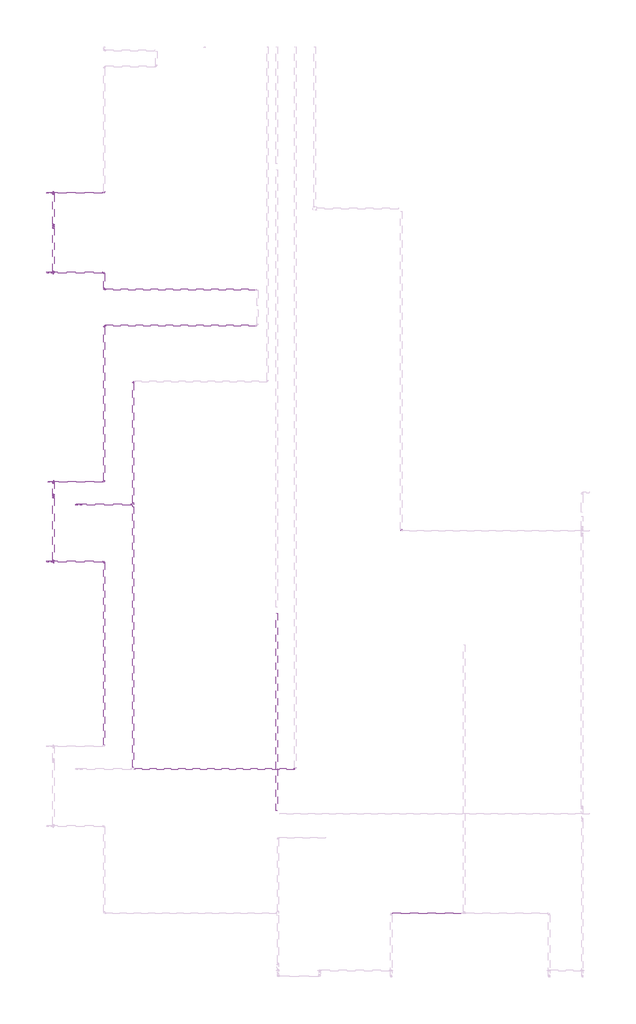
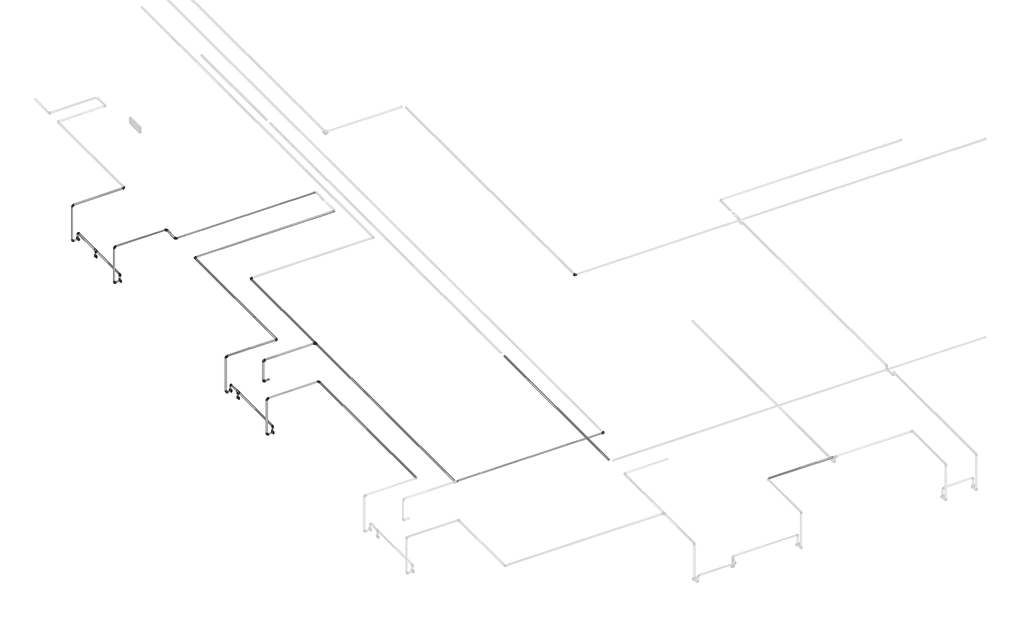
# One storey, part 2 of 40: 35 cable carrier segments, 26 cable carrier fittings, 6 electric appliances.
"""IFC4 building model written with IfcOpenShell, lengths in millimetres."""

from ifc_helpers import new_model, si_unit, point, frame, frame_2d, origin, place, context, project, spatial, circle_curve, trimmed, segment, composite_curve, outline, extrude, transform, mapped, element, save
from components import cable_carrier_fitting_69f1a801, cable_carrier_fitting_f6a85e77, cable_carrier_fitting_8fd13dfc, electric_appliance_5961a143

model = new_model("IFC4")

# Units and contexts
model_context = context("Model", 3, world=origin())
ifc_project = project(units=[si_unit("LENGTHUNIT", "METRE", prefix="MILLI")], contexts=[model_context])

# Site, building, storey
site = spatial("IfcSite", under=ifc_project)
building = spatial("IfcBuilding", under=site)
storey = spatial("IfcBuildingStorey", under=building, Name="1 этаж", Elevation=0.0)

# Cable carrier fittings
placement = place(None, origin())
cable_carrier_fitting_shape = cable_carrier_fitting_69f1a801(model_context)
element("IfcCableCarrierFitting", 1, ObjectType="ADSK_Поворот_Минимальный размер : Неспецифицируемый", at=placement, inside=storey, context=model_context, shape_type="MappedRepresentation", body=[
    mapped(cable_carrier_fitting_shape, transform((-32812.3240021, -5340.3629895, 3187.0), x_axis=(0.0, -1.0, 0.0), y_axis=(1.0, 0.0, 0.0), z_axis=(0.0, 0.0, 1.0))),
])
element("IfcCableCarrierFitting", 2, ObjectType="ADSK_Поворот_Минимальный размер : Неспецифицируемый", at=placement, inside=storey, context=model_context, shape_type="MappedRepresentation", body=[
    mapped(cable_carrier_fitting_shape, transform((-38386.5238077, -5825.3629895, 3187.0), x_axis=(0.0, 0.0, 1.0), y_axis=(1.0, 0.0, 0.0), z_axis=(0.0, 1.0, 0.0))),
])
element("IfcCableCarrierFitting", 3, ObjectType="ADSK_Поворот_Минимальный размер : Неспецифицируемый", at=placement, inside=storey, context=model_context, shape_type="MappedRepresentation", body=[
    mapped(cable_carrier_fitting_shape, transform((-37489.3240021, -5825.3629895, 3187.0), x_axis=(0.0, 1.0, 0.0), y_axis=(-1.0, 0.0, 0.0), z_axis=(0.0, 0.0, 1.0))),
])
element("IfcCableCarrierFitting", 4, ObjectType="ADSK_Поворот_Минимальный размер : Неспецифицируемый", at=placement, inside=storey, context=model_context, shape_type="MappedRepresentation", body=[
    mapped(cable_carrier_fitting_shape, transform((-38286.3240021, -5825.3629895, 2650.0), x_axis=(0.0, -1.0, 0.0), y_axis=(0.0, 0.0, -1.0), z_axis=(1.0, 0.0, 0.0))),
])
element("IfcCableCarrierFitting", 5, ObjectType="ADSK_Поворот_Минимальный размер : Неспецифицируемый", at=placement, inside=storey, context=model_context, shape_type="MappedRepresentation", body=[
    mapped(cable_carrier_fitting_shape, transform((-38386.5238077, -5825.3629895, 2534.0911237), x_axis=(0.0, 0.0, -1.0), y_axis=(1.0, 0.0, 0.0), z_axis=(0.0, -1.0, 0.0))),
])
element("IfcCableCarrierFitting", 6, ObjectType="ADSK_Поворот_Минимальный размер : Неспецифицируемый", at=placement, inside=storey, context=model_context, shape_type="MappedRepresentation", body=[
    mapped(cable_carrier_fitting_shape, transform((-38386.5238077, -23.8629895, 3184.0), x_axis=(0.0, 0.0, 1.0), y_axis=(1.0, 0.0, 0.0), z_axis=(0.0, 1.0, 0.0))),
])
element("IfcCableCarrierFitting", 7, ObjectType="ADSK_Поворот_Минимальный размер : Неспецифицируемый", at=placement, inside=storey, context=model_context, shape_type="MappedRepresentation", body=[
    mapped(cable_carrier_fitting_shape, transform((-38386.5238077, -1277.8629895, 3187.0), x_axis=(0.0, 0.0, 1.0), y_axis=(1.0, 0.0, 0.0), z_axis=(0.0, 1.0, 0.0))),
])
element("IfcCableCarrierFitting", 8, ObjectType="ADSK_Поворот_Минимальный размер : Неспецифицируемый", at=placement, inside=storey, context=model_context, shape_type="MappedRepresentation", body=[
    mapped(cable_carrier_fitting_shape, transform((-37489.3240021, -1277.8629895, 3187.0), x_axis=(0.0, 1.0, 0.0), y_axis=(-1.0, 0.0, 0.0), z_axis=(0.0, 0.0, 1.0))),
])
element("IfcCableCarrierFitting", 9, ObjectType="ADSK_Поворот_Минимальный размер : Неспецифицируемый", at=placement, inside=storey, context=model_context, shape_type="MappedRepresentation", body=[
    mapped(cable_carrier_fitting_shape, transform((-38286.3240021, -1277.8629895, 2650.0), x_axis=(0.0, -1.0, 0.0), y_axis=(0.0, 0.0, -1.0), z_axis=(1.0, 0.0, 0.0))),
])
element("IfcCableCarrierFitting", 10, ObjectType="ADSK_Поворот_Минимальный размер : Неспецифицируемый", at=placement, inside=storey, context=model_context, shape_type="MappedRepresentation", body=[
    mapped(cable_carrier_fitting_shape, transform((-38386.5238077, -1277.8629895, 2534.0911237), x_axis=(0.0, 0.0, -1.0), y_axis=(1.0, 0.0, 0.0), z_axis=(0.0, -1.0, 0.0))),
])
element("IfcCableCarrierFitting", 11, ObjectType="ADSK_Поворот_Минимальный размер : Неспецифицируемый", at=placement, inside=storey, context=model_context, shape_type="MappedRepresentation", body=[
    mapped(cable_carrier_fitting_shape, transform((-38386.5238077, -23.8629895, 2534.0911237), x_axis=(0.0, 0.0, -1.0), y_axis=(1.0, 0.0, 0.0), z_axis=(0.0, -1.0, 0.0))),
])
element("IfcCableCarrierFitting", 12, ObjectType="ADSK_Поворот_Минимальный размер : Неспецифицируемый", at=placement, inside=storey, context=model_context, shape_type="MappedRepresentation", body=[
    mapped(cable_carrier_fitting_shape, transform((-37489.3240021, -23.8629895, 3184.0), x_axis=(1.0, 0.0, 0.0), y_axis=(0.0, 1.0, 0.0), z_axis=(0.0, 0.0, 1.0))),
])
element("IfcCableCarrierFitting", 13, ObjectType="ADSK_Поворот_Минимальный размер : Неспецифицируемый", at=placement, inside=storey, context=model_context, shape_type="MappedRepresentation", body=[
    mapped(cable_carrier_fitting_shape, transform((-37489.3240021, -1547.9012067, 3187.0), x_axis=(0.0, -1.0, 0.0), y_axis=(1.0, 0.0, 0.0), z_axis=(0.0, 0.0, 1.0))),
])
element("IfcCableCarrierFitting", 14, ObjectType="ADSK_Поворот_Минимальный размер : Неспецифицируемый", at=placement, inside=storey, context=model_context, shape_type="MappedRepresentation", body=[
    mapped(cable_carrier_fitting_shape, transform((-37489.3240021, -4571.3629895, 3187.0), x_axis=(1.0, 0.0, 0.0), y_axis=(0.0, 1.0, 0.0), z_axis=(0.0, 0.0, 1.0))),
])
element("IfcCableCarrierFitting", 15, ObjectType="ADSK_Поворот_Минимальный размер : Неспецифицируемый", at=placement, inside=storey, context=model_context, shape_type="MappedRepresentation", body=[
    mapped(cable_carrier_fitting_shape, transform((-37489.3240021, -2112.8629895, 3187.0), x_axis=(-1.0, 0.0, 0.0), y_axis=(0.0, -1.0, 0.0), z_axis=(0.0, 0.0, 1.0))),
])
element("IfcCableCarrierFitting", 16, ObjectType="ADSK_Поворот_Минимальный размер : Неспецифицируемый", at=placement, inside=storey, context=model_context, shape_type="MappedRepresentation", body=[
    mapped(cable_carrier_fitting_shape, transform((-38365.5238077, -4571.3629895, 3187.0), x_axis=(-1.0, 0.0, 0.0), y_axis=(0.0, 0.0, -1.0), z_axis=(0.0, -1.0, 0.0))),
])
element("IfcCableCarrierFitting", 17, ObjectType="ADSK_Поворот_Минимальный размер : Неспецифицируемый", at=placement, inside=storey, context=model_context, shape_type="MappedRepresentation", body=[
    mapped(cable_carrier_fitting_shape, transform((-37929.5238077, -4930.3629895, 2797.4861504), x_axis=(-1.0, 0.0, 0.0), y_axis=(0.0, 0.0, 1.0), z_axis=(0.0, 1.0, 0.0))),
])
element("IfcCableCarrierFitting", 18, ObjectType="ADSK_Поворот_Минимальный размер : Неспецифицируемый", at=placement, inside=storey, context=model_context, shape_type="MappedRepresentation", body=[
    mapped(cable_carrier_fitting_shape, transform((-37032.3240021, -2991.9352607, 3180.0), x_axis=(-1.0, 0.0, 0.0), y_axis=(0.0, -1.0, 0.0), z_axis=(0.0, 0.0, 1.0))),
])
element("IfcCableCarrierFitting", 19, ObjectType="ADSK_Поворот_Минимальный размер : Неспецифицируемый", at=placement, inside=storey, context=model_context, shape_type="MappedRepresentation", body=[
    mapped(cable_carrier_fitting_shape, transform((-37929.5238077, -4930.3629895, 3180.0), x_axis=(0.0, 0.0, 1.0), y_axis=(1.0, 0.0, 0.0), z_axis=(0.0, 1.0, 0.0))),
])
element("IfcCableCarrierFitting", 20, ObjectType="ADSK_Поворот_Минимальный размер : Неспецифицируемый", at=placement, inside=storey, context=model_context, shape_type="MappedRepresentation", body=[
    mapped(cable_carrier_fitting_shape, transform((-34481.7856953, -9090.3629895, 3180.0), x_axis=(1.0, 0.0, 0.0), y_axis=(0.0, 1.0, 0.0), z_axis=(0.0, 0.0, 1.0))),
])
element("IfcCableCarrierFitting", 21, ObjectType="ADSK_Поворот_Минимальный размер : Неспецифицируемый", at=placement, inside=storey, context=model_context, shape_type="MappedRepresentation", body=[
    mapped(cable_carrier_fitting_shape, transform((-38286.3240021, -23.8629895, 2650.0), x_axis=(0.0, 1.0, 0.0), y_axis=(0.0, 0.0, -1.0), z_axis=(-1.0, 0.0, 0.0))),
])
element("IfcCableCarrierFitting", 22, ObjectType="ADSK_Поворот_Минимальный размер : Неспецифицируемый", at=placement, inside=storey, context=model_context, shape_type="MappedRepresentation", body=[
    mapped(cable_carrier_fitting_shape, transform((-38286.3240021, -4571.3629895, 2650.0), x_axis=(0.0, 1.0, 0.0), y_axis=(0.0, 0.0, -1.0), z_axis=(-1.0, 0.0, 0.0))),
])
cable_carrier_fitting_2_shape = cable_carrier_fitting_f6a85e77(model_context)
element("IfcCableCarrierFitting", 23, ObjectType="ADSK_Поворот_Минимальный размер : Неспецифицируемый", at=placement, inside=storey, context=model_context, shape_type="MappedRepresentation", body=[
    mapped(cable_carrier_fitting_2_shape, transform((-38365.5238077, -4571.3629895, 2534.1), x_axis=(0.0, 0.0, -1.0), y_axis=(1.0, 0.0, 0.0), z_axis=(0.0, -1.0, 0.0))),
])
cable_carrier_fitting_3_shape = cable_carrier_fitting_8fd13dfc(model_context)
element("IfcCableCarrierFitting", 24, ObjectType="ADSK_Тройник : ПВХ", at=placement, inside=storey, context=model_context, shape_type="MappedRepresentation", body=[
    mapped(cable_carrier_fitting_3_shape, transform((-38286.3240021, -4795.3629895, 2650.0), x_axis=(0.0, 1.0, 0.0), y_axis=(0.0, 0.0, 1.0), z_axis=(1.0, 0.0, 0.0))),
])
element("IfcCableCarrierFitting", 25, ObjectType="ADSK_Тройник : ПВХ", at=placement, inside=storey, context=model_context, shape_type="MappedRepresentation", body=[
    mapped(cable_carrier_fitting_3_shape, transform((-38286.3240021, -552.8629895, 2650.0), x_axis=(0.0, 1.0, 0.0), y_axis=(0.0, 0.0, 1.0), z_axis=(1.0, 0.0, 0.0))),
])
element("IfcCableCarrierFitting", 26, ObjectType="ADSK_Тройник : ПВХ", at=placement, inside=storey, context=model_context, shape_type="MappedRepresentation", body=[
    mapped(cable_carrier_fitting_3_shape, transform((-37032.3240021, -4930.3629895, 3180.0), x_axis=(0.0, -1.0, 0.0), y_axis=(1.0, 0.0, 0.0), z_axis=(0.0, 0.0, 1.0))),
])

# Cable carrier segments
element("IfcCableCarrierSegment", 27, ObjectType="Гофрированная труба", at=placement, inside=storey, context=model_context, shape_type="SweptSolid", body=[
    extrude(outline(composite_curve([segment(trimmed(circle_curve(frame_2d((3187.0, -34772.3240021)), 10.0), [point((3187.0, -34782.3240021))], [point((3177.0, -34772.3240021))], False, "CARTESIAN"), True, "CONTINUOUS"), segment(trimmed(circle_curve(frame_2d((3187.0, -34772.3240021)), 10.0), [point((3177.0, -34772.3240021))], [point((3187.0, -34762.3240021))], False, "CARTESIAN"), True, "CONTINUOUS"), segment(trimmed(circle_curve(frame_2d((3187.0, -34772.3240021)), 10.0), [point((3187.0, -34762.3240021))], [point((3197.0, -34772.3240021))], False, "CARTESIAN"), True, "CONTINUOUS"), segment(trimmed(circle_curve(frame_2d((3187.0, -34772.3240021)), 10.0), [point((3197.0, -34772.3240021))], [point((3187.0, -34782.3240021))], False, "CARTESIAN"), True, "CONTINUOUS")], self_intersect=False)), frame((0.0, -9748.8629895, 0.0), z_axis=(0.0, 1.0, 0.0), x_axis=(0.0, 0.0, 1.0)), (0.0, 0.0, 1.0), 3107.0),
])
element("IfcCableCarrierSegment", 28, ObjectType="Гофрированная труба", at=placement, inside=storey, context=model_context, shape_type="SweptSolid", body=[
    extrude(outline(composite_curve([segment(trimmed(circle_curve(frame_2d((3187.0, -37489.3240021)), 10.0), [point((3187.0, -37479.3240021))], [point((3197.0, -37489.3240021))], False, "CARTESIAN"), True, "CONTINUOUS"), segment(trimmed(circle_curve(frame_2d((3187.0, -37489.3240021)), 10.0), [point((3197.0, -37489.3240021))], [point((3187.0, -37499.3240021))], False, "CARTESIAN"), True, "CONTINUOUS"), segment(trimmed(circle_curve(frame_2d((3187.0, -37489.3240021)), 10.0), [point((3187.0, -37499.3240021))], [point((3177.0, -37489.3240021))], False, "CARTESIAN"), True, "CONTINUOUS"), segment(trimmed(circle_curve(frame_2d((3187.0, -37489.3240021)), 10.0), [point((3177.0, -37489.3240021))], [point((3187.0, -37479.3240021))], False, "CARTESIAN"), True, "CONTINUOUS")], self_intersect=False)), frame((0.0, -8710.3629895, 0.0), z_axis=(0.0, 1.0, 0.0), x_axis=(0.0, 0.0, 1.0)), (0.0, 0.0, 1.0), 2864.0),
])
element("IfcCableCarrierSegment", 29, ObjectType="Гофрированная труба", at=placement, inside=storey, context=model_context, shape_type="SweptSolid", body=[
    extrude(outline(composite_curve([segment(trimmed(circle_curve(frame_2d((-38286.3240021, -4795.3629895)), 10.0), [point((-38276.3240021, -4795.3629895))], [point((-38286.3240021, -4805.3629895))], False, "CARTESIAN"), True, "CONTINUOUS"), segment(trimmed(circle_curve(frame_2d((-38286.3240021, -4795.3629895)), 10.0), [point((-38286.3240021, -4805.3629895))], [point((-38296.3240021, -4795.3629895))], False, "CARTESIAN"), True, "CONTINUOUS"), segment(trimmed(circle_curve(frame_2d((-38286.3240021, -4795.3629895)), 10.0), [point((-38296.3240021, -4795.3629895))], [point((-38286.3240021, -4785.3629895))], False, "CARTESIAN"), True, "CONTINUOUS"), segment(trimmed(circle_curve(frame_2d((-38286.3240021, -4795.3629895)), 10.0), [point((-38286.3240021, -4785.3629895))], [point((-38276.3240021, -4795.3629895))], False, "CARTESIAN"), True, "CONTINUOUS")], self_intersect=False)), frame((0.0, 0.0, 2563.1207114), z_axis=(0.0, 0.0, 1.0), x_axis=(1.0, 0.0, 0.0)), (0.0, 0.0, 1.0), 56.8792886),
])
element("IfcCableCarrierSegment", 30, ObjectType="Гофрированная труба", at=placement, inside=storey, context=model_context, shape_type="SweptSolid", body=[
    extrude(outline(composite_curve([segment(trimmed(circle_curve(frame_2d((-38286.3240021, -5825.3629895)), 10.0), [point((-38276.3240021, -5825.3629895))], [point((-38286.3240021, -5835.3629895))], False, "CARTESIAN"), True, "CONTINUOUS"), segment(trimmed(circle_curve(frame_2d((-38286.3240021, -5825.3629895)), 10.0), [point((-38286.3240021, -5835.3629895))], [point((-38296.3240021, -5825.3629895))], False, "CARTESIAN"), True, "CONTINUOUS"), segment(trimmed(circle_curve(frame_2d((-38286.3240021, -5825.3629895)), 10.0), [point((-38296.3240021, -5825.3629895))], [point((-38286.3240021, -5815.3629895))], False, "CARTESIAN"), True, "CONTINUOUS"), segment(trimmed(circle_curve(frame_2d((-38286.3240021, -5825.3629895)), 10.0), [point((-38286.3240021, -5815.3629895))], [point((-38276.3240021, -5825.3629895))], False, "CARTESIAN"), True, "CONTINUOUS")], self_intersect=False)), frame((0.0, 0.0, 2563.1207114), z_axis=(0.0, 0.0, 1.0), x_axis=(1.0, 0.0, 0.0)), (0.0, 0.0, 1.0), 65.8792886),
])
element("IfcCableCarrierSegment", 31, ObjectType="Гофрированная труба", at=placement, inside=storey, context=model_context, shape_type="SweptSolid", body=[
    extrude(outline(composite_curve([segment(trimmed(circle_curve(frame_2d((2650.0, -38286.3240021)), 10.0), [point((2650.0, -38296.3240021))], [point((2640.0, -38286.3240021))], False, "CARTESIAN"), True, "CONTINUOUS"), segment(trimmed(circle_curve(frame_2d((2650.0, -38286.3240021)), 10.0), [point((2640.0, -38286.3240021))], [point((2650.0, -38276.3240021))], False, "CARTESIAN"), True, "CONTINUOUS"), segment(trimmed(circle_curve(frame_2d((2650.0, -38286.3240021)), 10.0), [point((2650.0, -38276.3240021))], [point((2660.0, -38286.3240021))], False, "CARTESIAN"), True, "CONTINUOUS"), segment(trimmed(circle_curve(frame_2d((2650.0, -38286.3240021)), 10.0), [point((2660.0, -38286.3240021))], [point((2650.0, -38296.3240021))], False, "CARTESIAN"), True, "CONTINUOUS")], self_intersect=False)), frame((0.0, -5804.3629895, 0.0), z_axis=(0.0, 1.0, 0.0), x_axis=(0.0, 0.0, 1.0)), (0.0, 0.0, 1.0), 979.0),
])
element("IfcCableCarrierSegment", 32, ObjectType="Гофрированная труба", at=placement, inside=storey, context=model_context, shape_type="SweptSolid", body=[
    extrude(outline(composite_curve([segment(trimmed(circle_curve(frame_2d((-38286.3240021, -4571.3629895)), 10.0), [point((-38276.3240021, -4571.3629895))], [point((-38286.3240021, -4581.3629895))], False, "CARTESIAN"), True, "CONTINUOUS"), segment(trimmed(circle_curve(frame_2d((-38286.3240021, -4571.3629895)), 10.0), [point((-38286.3240021, -4581.3629895))], [point((-38296.3240021, -4571.3629895))], False, "CARTESIAN"), True, "CONTINUOUS"), segment(trimmed(circle_curve(frame_2d((-38286.3240021, -4571.3629895)), 10.0), [point((-38296.3240021, -4571.3629895))], [point((-38286.3240021, -4561.3629895))], False, "CARTESIAN"), True, "CONTINUOUS"), segment(trimmed(circle_curve(frame_2d((-38286.3240021, -4571.3629895)), 10.0), [point((-38286.3240021, -4561.3629895))], [point((-38276.3240021, -4571.3629895))], False, "CARTESIAN"), True, "CONTINUOUS")], self_intersect=False)), frame((0.0, 0.0, 2563.1207114), z_axis=(0.0, 0.0, 1.0), x_axis=(1.0, 0.0, 0.0)), (0.0, 0.0, 1.0), 65.8792886),
])
element("IfcCableCarrierSegment", 33, ObjectType="Гофрированная труба", at=placement, inside=storey, context=model_context, shape_type="SweptSolid", body=[
    extrude(outline(composite_curve([segment(trimmed(circle_curve(frame_2d((2650.0, -38286.3240021)), 10.0), [point((2650.0, -38296.3240021))], [point((2640.0, -38286.3240021))], False, "CARTESIAN"), True, "CONTINUOUS"), segment(trimmed(circle_curve(frame_2d((2650.0, -38286.3240021)), 10.0), [point((2640.0, -38286.3240021))], [point((2650.0, -38276.3240021))], False, "CARTESIAN"), True, "CONTINUOUS"), segment(trimmed(circle_curve(frame_2d((2650.0, -38286.3240021)), 10.0), [point((2650.0, -38276.3240021))], [point((2660.0, -38286.3240021))], False, "CARTESIAN"), True, "CONTINUOUS"), segment(trimmed(circle_curve(frame_2d((2650.0, -38286.3240021)), 10.0), [point((2660.0, -38286.3240021))], [point((2650.0, -38296.3240021))], False, "CARTESIAN"), True, "CONTINUOUS")], self_intersect=False)), frame((0.0, -4765.3629895, 0.0), z_axis=(0.0, 1.0, 0.0), x_axis=(0.0, 0.0, 1.0)), (0.0, 0.0, 1.0), 173.0),
])
element("IfcCableCarrierSegment", 34, ObjectType="Гофрированная труба", at=placement, inside=storey, context=model_context, shape_type="SweptSolid", body=[
    extrude(outline(composite_curve([segment(trimmed(circle_curve(frame_2d((-4571.3629895, 3187.0)), 10.0), [point((-4581.3629895, 3187.0))], [point((-4571.3629895, 3197.0))], False, "CARTESIAN"), True, "CONTINUOUS"), segment(trimmed(circle_curve(frame_2d((-4571.3629895, 3187.0)), 10.0), [point((-4571.3629895, 3197.0))], [point((-4561.3629895, 3187.0))], False, "CARTESIAN"), True, "CONTINUOUS"), segment(trimmed(circle_curve(frame_2d((-4571.3629895, 3187.0)), 10.0), [point((-4561.3629895, 3187.0))], [point((-4571.3629895, 3177.0))], False, "CARTESIAN"), True, "CONTINUOUS"), segment(trimmed(circle_curve(frame_2d((-4571.3629895, 3187.0)), 10.0), [point((-4571.3629895, 3177.0))], [point((-4581.3629895, 3187.0))], False, "CARTESIAN"), True, "CONTINUOUS")], self_intersect=False)), frame((-38344.5238077, 0.0, 0.0), z_axis=(1.0, 0.0, 0.0), x_axis=(0.0, 1.0, 0.0)), (0.0, 0.0, 1.0), 834.1998056),
])
element("IfcCableCarrierSegment", 35, ObjectType="Гофрированная труба", at=placement, inside=storey, context=model_context, shape_type="SweptSolid", body=[
    extrude(outline(composite_curve([segment(trimmed(circle_curve(frame_2d((-5825.3629895, 3187.0)), 10.0), [point((-5835.3629895, 3187.0))], [point((-5825.3629895, 3197.0))], False, "CARTESIAN"), True, "CONTINUOUS"), segment(trimmed(circle_curve(frame_2d((-5825.3629895, 3187.0)), 10.0), [point((-5825.3629895, 3197.0))], [point((-5815.3629895, 3187.0))], False, "CARTESIAN"), True, "CONTINUOUS"), segment(trimmed(circle_curve(frame_2d((-5825.3629895, 3187.0)), 10.0), [point((-5815.3629895, 3187.0))], [point((-5825.3629895, 3177.0))], False, "CARTESIAN"), True, "CONTINUOUS"), segment(trimmed(circle_curve(frame_2d((-5825.3629895, 3187.0)), 10.0), [point((-5825.3629895, 3177.0))], [point((-5835.3629895, 3187.0))], False, "CARTESIAN"), True, "CONTINUOUS")], self_intersect=False)), frame((-38365.5238077, 0.0, 0.0), z_axis=(1.0, 0.0, 0.0), x_axis=(0.0, 1.0, 0.0)), (0.0, 0.0, 1.0), 855.1998056),
])
element("IfcCableCarrierSegment", 36, ObjectType="Гофрированная труба", at=placement, inside=storey, context=model_context, shape_type="SweptSolid", body=[
    extrude(outline(composite_curve([segment(trimmed(circle_curve(frame_2d((-5825.3629895, 2534.0911237)), 10.0), [point((-5835.3629895, 2534.0911237))], [point((-5825.3629895, 2544.0911237))], False, "CARTESIAN"), True, "CONTINUOUS"), segment(trimmed(circle_curve(frame_2d((-5825.3629895, 2534.0911237)), 10.0), [point((-5825.3629895, 2544.0911237))], [point((-5815.3629895, 2534.0911237))], False, "CARTESIAN"), True, "CONTINUOUS"), segment(trimmed(circle_curve(frame_2d((-5825.3629895, 2534.0911237)), 10.0), [point((-5815.3629895, 2534.0911237))], [point((-5825.3629895, 2524.0911237))], False, "CARTESIAN"), True, "CONTINUOUS"), segment(trimmed(circle_curve(frame_2d((-5825.3629895, 2534.0911237)), 10.0), [point((-5825.3629895, 2524.0911237))], [point((-5835.3629895, 2534.0911237))], False, "CARTESIAN"), True, "CONTINUOUS")], self_intersect=False)), frame((-38365.5238077, 0.0, 0.0), z_axis=(1.0, 0.0, 0.0), x_axis=(0.0, 1.0, 0.0)), (0.0, 0.0, 1.0), 76.1998056),
])
element("IfcCableCarrierSegment", 37, ObjectType="Гофрированная труба", at=placement, inside=storey, context=model_context, shape_type="SweptSolid", body=[
    extrude(outline(composite_curve([segment(trimmed(circle_curve(frame_2d((-38386.5238077, -5825.3629895)), 10.0), [point((-38396.5238077, -5825.3629895))], [point((-38386.5238077, -5815.3629895))], False, "CARTESIAN"), True, "CONTINUOUS"), segment(trimmed(circle_curve(frame_2d((-38386.5238077, -5825.3629895)), 10.0), [point((-38386.5238077, -5815.3629895))], [point((-38376.5238077, -5825.3629895))], False, "CARTESIAN"), True, "CONTINUOUS"), segment(trimmed(circle_curve(frame_2d((-38386.5238077, -5825.3629895)), 10.0), [point((-38376.5238077, -5825.3629895))], [point((-38386.5238077, -5835.3629895))], False, "CARTESIAN"), True, "CONTINUOUS"), segment(trimmed(circle_curve(frame_2d((-38386.5238077, -5825.3629895)), 10.0), [point((-38386.5238077, -5835.3629895))], [point((-38396.5238077, -5825.3629895))], False, "CARTESIAN"), True, "CONTINUOUS")], self_intersect=False)), frame((0.0, 0.0, 2555.0911237), z_axis=(0.0, 0.0, 1.0), x_axis=(1.0, 0.0, 0.0)), (0.0, 0.0, 1.0), 610.9088763),
])
element("IfcCableCarrierSegment", 38, ObjectType="Гофрированная труба", at=placement, inside=storey, context=model_context, shape_type="SweptSolid", body=[
    extrude(outline(composite_curve([segment(trimmed(circle_curve(frame_2d((-38286.3240021, -552.8629895)), 10.0), [point((-38276.3240021, -552.8629895))], [point((-38286.3240021, -562.8629895))], False, "CARTESIAN"), True, "CONTINUOUS"), segment(trimmed(circle_curve(frame_2d((-38286.3240021, -552.8629895)), 10.0), [point((-38286.3240021, -562.8629895))], [point((-38296.3240021, -552.8629895))], False, "CARTESIAN"), True, "CONTINUOUS"), segment(trimmed(circle_curve(frame_2d((-38286.3240021, -552.8629895)), 10.0), [point((-38296.3240021, -552.8629895))], [point((-38286.3240021, -542.8629895))], False, "CARTESIAN"), True, "CONTINUOUS"), segment(trimmed(circle_curve(frame_2d((-38286.3240021, -552.8629895)), 10.0), [point((-38286.3240021, -542.8629895))], [point((-38276.3240021, -552.8629895))], False, "CARTESIAN"), True, "CONTINUOUS")], self_intersect=False)), frame((0.0, 0.0, 2563.1207114), z_axis=(0.0, 0.0, 1.0), x_axis=(1.0, 0.0, 0.0)), (0.0, 0.0, 1.0), 56.8792886),
])
element("IfcCableCarrierSegment", 39, ObjectType="Гофрированная труба", at=placement, inside=storey, context=model_context, shape_type="SweptSolid", body=[
    extrude(outline(composite_curve([segment(trimmed(circle_curve(frame_2d((-38286.3240021, -1277.8629895)), 10.0), [point((-38276.3240021, -1277.8629895))], [point((-38286.3240021, -1287.8629895))], False, "CARTESIAN"), True, "CONTINUOUS"), segment(trimmed(circle_curve(frame_2d((-38286.3240021, -1277.8629895)), 10.0), [point((-38286.3240021, -1287.8629895))], [point((-38296.3240021, -1277.8629895))], False, "CARTESIAN"), True, "CONTINUOUS"), segment(trimmed(circle_curve(frame_2d((-38286.3240021, -1277.8629895)), 10.0), [point((-38296.3240021, -1277.8629895))], [point((-38286.3240021, -1267.8629895))], False, "CARTESIAN"), True, "CONTINUOUS"), segment(trimmed(circle_curve(frame_2d((-38286.3240021, -1277.8629895)), 10.0), [point((-38286.3240021, -1267.8629895))], [point((-38276.3240021, -1277.8629895))], False, "CARTESIAN"), True, "CONTINUOUS")], self_intersect=False)), frame((0.0, 0.0, 2563.1207114), z_axis=(0.0, 0.0, 1.0), x_axis=(1.0, 0.0, 0.0)), (0.0, 0.0, 1.0), 65.8792886),
])
element("IfcCableCarrierSegment", 40, ObjectType="Гофрированная труба", at=placement, inside=storey, context=model_context, shape_type="SweptSolid", body=[
    extrude(outline(composite_curve([segment(trimmed(circle_curve(frame_2d((2650.0, -38286.3240021)), 10.0), [point((2650.0, -38296.3240021))], [point((2640.0, -38286.3240021))], False, "CARTESIAN"), True, "CONTINUOUS"), segment(trimmed(circle_curve(frame_2d((2650.0, -38286.3240021)), 10.0), [point((2640.0, -38286.3240021))], [point((2650.0, -38276.3240021))], False, "CARTESIAN"), True, "CONTINUOUS"), segment(trimmed(circle_curve(frame_2d((2650.0, -38286.3240021)), 10.0), [point((2650.0, -38276.3240021))], [point((2660.0, -38286.3240021))], False, "CARTESIAN"), True, "CONTINUOUS"), segment(trimmed(circle_curve(frame_2d((2650.0, -38286.3240021)), 10.0), [point((2660.0, -38286.3240021))], [point((2650.0, -38296.3240021))], False, "CARTESIAN"), True, "CONTINUOUS")], self_intersect=False)), frame((0.0, -1256.8629895, 0.0), z_axis=(0.0, 1.0, 0.0), x_axis=(0.0, 0.0, 1.0)), (0.0, 0.0, 1.0), 674.0),
])
element("IfcCableCarrierSegment", 41, ObjectType="Гофрированная труба", at=placement, inside=storey, context=model_context, shape_type="SweptSolid", body=[
    extrude(outline(composite_curve([segment(trimmed(circle_curve(frame_2d((-38286.3240021, -23.8629895)), 10.0), [point((-38276.3240021, -23.8629895))], [point((-38286.3240021, -33.8629895))], False, "CARTESIAN"), True, "CONTINUOUS"), segment(trimmed(circle_curve(frame_2d((-38286.3240021, -23.8629895)), 10.0), [point((-38286.3240021, -33.8629895))], [point((-38296.3240021, -23.8629895))], False, "CARTESIAN"), True, "CONTINUOUS"), segment(trimmed(circle_curve(frame_2d((-38286.3240021, -23.8629895)), 10.0), [point((-38296.3240021, -23.8629895))], [point((-38286.3240021, -13.8629895))], False, "CARTESIAN"), True, "CONTINUOUS"), segment(trimmed(circle_curve(frame_2d((-38286.3240021, -23.8629895)), 10.0), [point((-38286.3240021, -13.8629895))], [point((-38276.3240021, -23.8629895))], False, "CARTESIAN"), True, "CONTINUOUS")], self_intersect=False)), frame((0.0, 0.0, 2563.1207114), z_axis=(0.0, 0.0, 1.0), x_axis=(1.0, 0.0, 0.0)), (0.0, 0.0, 1.0), 65.8792886),
])
element("IfcCableCarrierSegment", 42, ObjectType="Гофрированная труба", at=placement, inside=storey, context=model_context, shape_type="SweptSolid", body=[
    extrude(outline(composite_curve([segment(trimmed(circle_curve(frame_2d((2650.0, -38286.3240021)), 10.0), [point((2650.0, -38296.3240021))], [point((2640.0, -38286.3240021))], False, "CARTESIAN"), True, "CONTINUOUS"), segment(trimmed(circle_curve(frame_2d((2650.0, -38286.3240021)), 10.0), [point((2640.0, -38286.3240021))], [point((2650.0, -38276.3240021))], False, "CARTESIAN"), True, "CONTINUOUS"), segment(trimmed(circle_curve(frame_2d((2650.0, -38286.3240021)), 10.0), [point((2650.0, -38276.3240021))], [point((2660.0, -38286.3240021))], False, "CARTESIAN"), True, "CONTINUOUS"), segment(trimmed(circle_curve(frame_2d((2650.0, -38286.3240021)), 10.0), [point((2660.0, -38286.3240021))], [point((2650.0, -38296.3240021))], False, "CARTESIAN"), True, "CONTINUOUS")], self_intersect=False)), frame((0.0, -522.8629895, 0.0), z_axis=(0.0, 1.0, 0.0), x_axis=(0.0, 0.0, 1.0)), (0.0, 0.0, 1.0), 478.0),
])
element("IfcCableCarrierSegment", 43, ObjectType="Гофрированная труба", at=placement, inside=storey, context=model_context, shape_type="SweptSolid", body=[
    extrude(outline(composite_curve([segment(trimmed(circle_curve(frame_2d((-23.8629895, 3184.0)), 10.0), [point((-33.8629895, 3184.0))], [point((-23.8629895, 3194.0))], False, "CARTESIAN"), True, "CONTINUOUS"), segment(trimmed(circle_curve(frame_2d((-23.8629895, 3184.0)), 10.0), [point((-23.8629895, 3194.0))], [point((-13.8629895, 3184.0))], False, "CARTESIAN"), True, "CONTINUOUS"), segment(trimmed(circle_curve(frame_2d((-23.8629895, 3184.0)), 10.0), [point((-13.8629895, 3184.0))], [point((-23.8629895, 3174.0))], False, "CARTESIAN"), True, "CONTINUOUS"), segment(trimmed(circle_curve(frame_2d((-23.8629895, 3184.0)), 10.0), [point((-23.8629895, 3174.0))], [point((-33.8629895, 3184.0))], False, "CARTESIAN"), True, "CONTINUOUS")], self_intersect=False)), frame((-38365.5238077, 0.0, 0.0), z_axis=(1.0, 0.0, 0.0), x_axis=(0.0, 1.0, 0.0)), (0.0, 0.0, 1.0), 855.1998056),
])
element("IfcCableCarrierSegment", 44, ObjectType="Гофрированная труба", at=placement, inside=storey, context=model_context, shape_type="SweptSolid", body=[
    extrude(outline(composite_curve([segment(trimmed(circle_curve(frame_2d((-23.8629895, 2534.0911237)), 10.0), [point((-33.8629895, 2534.0911237))], [point((-23.8629895, 2544.0911237))], False, "CARTESIAN"), True, "CONTINUOUS"), segment(trimmed(circle_curve(frame_2d((-23.8629895, 2534.0911237)), 10.0), [point((-23.8629895, 2544.0911237))], [point((-13.8629895, 2534.0911237))], False, "CARTESIAN"), True, "CONTINUOUS"), segment(trimmed(circle_curve(frame_2d((-23.8629895, 2534.0911237)), 10.0), [point((-13.8629895, 2534.0911237))], [point((-23.8629895, 2524.0911237))], False, "CARTESIAN"), True, "CONTINUOUS"), segment(trimmed(circle_curve(frame_2d((-23.8629895, 2534.0911237)), 10.0), [point((-23.8629895, 2524.0911237))], [point((-33.8629895, 2534.0911237))], False, "CARTESIAN"), True, "CONTINUOUS")], self_intersect=False)), frame((-38365.5238077, 0.0, 0.0), z_axis=(1.0, 0.0, 0.0), x_axis=(0.0, 1.0, 0.0)), (0.0, 0.0, 1.0), 76.1998056),
])
element("IfcCableCarrierSegment", 45, ObjectType="Гофрированная труба", at=placement, inside=storey, context=model_context, shape_type="SweptSolid", body=[
    extrude(outline(composite_curve([segment(trimmed(circle_curve(frame_2d((-38386.5238077, -23.8629895)), 10.0), [point((-38396.5238077, -23.8629895))], [point((-38386.5238077, -13.8629895))], False, "CARTESIAN"), True, "CONTINUOUS"), segment(trimmed(circle_curve(frame_2d((-38386.5238077, -23.8629895)), 10.0), [point((-38386.5238077, -13.8629895))], [point((-38376.5238077, -23.8629895))], False, "CARTESIAN"), True, "CONTINUOUS"), segment(trimmed(circle_curve(frame_2d((-38386.5238077, -23.8629895)), 10.0), [point((-38376.5238077, -23.8629895))], [point((-38386.5238077, -33.8629895))], False, "CARTESIAN"), True, "CONTINUOUS"), segment(trimmed(circle_curve(frame_2d((-38386.5238077, -23.8629895)), 10.0), [point((-38386.5238077, -33.8629895))], [point((-38396.5238077, -23.8629895))], False, "CARTESIAN"), True, "CONTINUOUS")], self_intersect=False)), frame((0.0, 0.0, 2555.0911237), z_axis=(0.0, 0.0, 1.0), x_axis=(1.0, 0.0, 0.0)), (0.0, 0.0, 1.0), 607.9088763),
])
element("IfcCableCarrierSegment", 46, ObjectType="Гофрированная труба", at=placement, inside=storey, context=model_context, shape_type="SweptSolid", body=[
    extrude(outline(composite_curve([segment(trimmed(circle_curve(frame_2d((-1277.8629895, 3187.0)), 10.0), [point((-1287.8629895, 3187.0))], [point((-1277.8629895, 3197.0))], False, "CARTESIAN"), True, "CONTINUOUS"), segment(trimmed(circle_curve(frame_2d((-1277.8629895, 3187.0)), 10.0), [point((-1277.8629895, 3197.0))], [point((-1267.8629895, 3187.0))], False, "CARTESIAN"), True, "CONTINUOUS"), segment(trimmed(circle_curve(frame_2d((-1277.8629895, 3187.0)), 10.0), [point((-1267.8629895, 3187.0))], [point((-1277.8629895, 3177.0))], False, "CARTESIAN"), True, "CONTINUOUS"), segment(trimmed(circle_curve(frame_2d((-1277.8629895, 3187.0)), 10.0), [point((-1277.8629895, 3177.0))], [point((-1287.8629895, 3187.0))], False, "CARTESIAN"), True, "CONTINUOUS")], self_intersect=False)), frame((-38365.5238077, 0.0, 0.0), z_axis=(1.0, 0.0, 0.0), x_axis=(0.0, 1.0, 0.0)), (0.0, 0.0, 1.0), 855.1998056),
])
element("IfcCableCarrierSegment", 47, ObjectType="Гофрированная труба", at=placement, inside=storey, context=model_context, shape_type="SweptSolid", body=[
    extrude(outline(composite_curve([segment(trimmed(circle_curve(frame_2d((-1277.8629895, 2534.0911237)), 10.0), [point((-1287.8629895, 2534.0911237))], [point((-1277.8629895, 2544.0911237))], False, "CARTESIAN"), True, "CONTINUOUS"), segment(trimmed(circle_curve(frame_2d((-1277.8629895, 2534.0911237)), 10.0), [point((-1277.8629895, 2544.0911237))], [point((-1267.8629895, 2534.0911237))], False, "CARTESIAN"), True, "CONTINUOUS"), segment(trimmed(circle_curve(frame_2d((-1277.8629895, 2534.0911237)), 10.0), [point((-1267.8629895, 2534.0911237))], [point((-1277.8629895, 2524.0911237))], False, "CARTESIAN"), True, "CONTINUOUS"), segment(trimmed(circle_curve(frame_2d((-1277.8629895, 2534.0911237)), 10.0), [point((-1277.8629895, 2524.0911237))], [point((-1287.8629895, 2534.0911237))], False, "CARTESIAN"), True, "CONTINUOUS")], self_intersect=False)), frame((-38365.5238077, 0.0, 0.0), z_axis=(1.0, 0.0, 0.0), x_axis=(0.0, 1.0, 0.0)), (0.0, 0.0, 1.0), 76.1998056),
])
element("IfcCableCarrierSegment", 48, ObjectType="Гофрированная труба", at=placement, inside=storey, context=model_context, shape_type="SweptSolid", body=[
    extrude(outline(composite_curve([segment(trimmed(circle_curve(frame_2d((-38386.5238077, -1277.8629895)), 10.0), [point((-38396.5238077, -1277.8629895))], [point((-38386.5238077, -1267.8629895))], False, "CARTESIAN"), True, "CONTINUOUS"), segment(trimmed(circle_curve(frame_2d((-38386.5238077, -1277.8629895)), 10.0), [point((-38386.5238077, -1267.8629895))], [point((-38376.5238077, -1277.8629895))], False, "CARTESIAN"), True, "CONTINUOUS"), segment(trimmed(circle_curve(frame_2d((-38386.5238077, -1277.8629895)), 10.0), [point((-38376.5238077, -1277.8629895))], [point((-38386.5238077, -1287.8629895))], False, "CARTESIAN"), True, "CONTINUOUS"), segment(trimmed(circle_curve(frame_2d((-38386.5238077, -1277.8629895)), 10.0), [point((-38386.5238077, -1287.8629895))], [point((-38396.5238077, -1277.8629895))], False, "CARTESIAN"), True, "CONTINUOUS")], self_intersect=False)), frame((0.0, 0.0, 2555.0911237), z_axis=(0.0, 0.0, 1.0), x_axis=(1.0, 0.0, 0.0)), (0.0, 0.0, 1.0), 610.9088763),
])
element("IfcCableCarrierSegment", 49, ObjectType="Гофрированная труба", at=placement, inside=storey, context=model_context, shape_type="SweptSolid", body=[
    extrude(outline(composite_curve([segment(trimmed(circle_curve(frame_2d((3187.0, -37489.3240021)), 10.0), [point((3187.0, -37499.3240021))], [point((3177.0, -37489.3240021))], False, "CARTESIAN"), True, "CONTINUOUS"), segment(trimmed(circle_curve(frame_2d((3187.0, -37489.3240021)), 10.0), [point((3177.0, -37489.3240021))], [point((3187.0, -37479.3240021))], False, "CARTESIAN"), True, "CONTINUOUS"), segment(trimmed(circle_curve(frame_2d((3187.0, -37489.3240021)), 10.0), [point((3187.0, -37479.3240021))], [point((3197.0, -37489.3240021))], False, "CARTESIAN"), True, "CONTINUOUS"), segment(trimmed(circle_curve(frame_2d((3187.0, -37489.3240021)), 10.0), [point((3197.0, -37489.3240021))], [point((3187.0, -37499.3240021))], False, "CARTESIAN"), True, "CONTINUOUS")], self_intersect=False)), frame((0.0, -1526.9012067, 0.0), z_axis=(0.0, 1.0, 0.0), x_axis=(0.0, 0.0, 1.0)), (0.0, 0.0, 1.0), 228.0382172),
])
element("IfcCableCarrierSegment", 50, ObjectType="Гофрированная труба", at=placement, inside=storey, context=model_context, shape_type="SweptSolid", body=[
    extrude(outline(composite_curve([segment(trimmed(circle_curve(frame_2d((-2112.8629895, 3187.0)), 10.0), [point((-2122.8629895, 3187.0))], [point((-2112.8629895, 3197.0))], False, "CARTESIAN"), True, "CONTINUOUS"), segment(trimmed(circle_curve(frame_2d((-2112.8629895, 3187.0)), 10.0), [point((-2112.8629895, 3197.0))], [point((-2102.8629895, 3187.0))], False, "CARTESIAN"), True, "CONTINUOUS"), segment(trimmed(circle_curve(frame_2d((-2112.8629895, 3187.0)), 10.0), [point((-2102.8629895, 3187.0))], [point((-2112.8629895, 3177.0))], False, "CARTESIAN"), True, "CONTINUOUS"), segment(trimmed(circle_curve(frame_2d((-2112.8629895, 3187.0)), 10.0), [point((-2112.8629895, 3177.0))], [point((-2122.8629895, 3187.0))], False, "CARTESIAN"), True, "CONTINUOUS")], self_intersect=False)), frame((-37468.3240021, 0.0, 0.0), z_axis=(1.0, 0.0, 0.0), x_axis=(0.0, 1.0, 0.0)), (0.0, 0.0, 1.0), 2372.5),
])
element("IfcCableCarrierSegment", 51, ObjectType="Гофрированная труба", at=placement, inside=storey, context=model_context, shape_type="SweptSolid", body=[
    extrude(outline(composite_curve([segment(trimmed(circle_curve(frame_2d((-1547.9012067, 3187.0)), 10.0), [point((-1557.9012067, 3187.0))], [point((-1547.9012067, 3197.0))], False, "CARTESIAN"), True, "CONTINUOUS"), segment(trimmed(circle_curve(frame_2d((-1547.9012067, 3187.0)), 10.0), [point((-1547.9012067, 3197.0))], [point((-1537.9012067, 3187.0))], False, "CARTESIAN"), True, "CONTINUOUS"), segment(trimmed(circle_curve(frame_2d((-1547.9012067, 3187.0)), 10.0), [point((-1537.9012067, 3187.0))], [point((-1547.9012067, 3177.0))], False, "CARTESIAN"), True, "CONTINUOUS"), segment(trimmed(circle_curve(frame_2d((-1547.9012067, 3187.0)), 10.0), [point((-1547.9012067, 3177.0))], [point((-1557.9012067, 3187.0))], False, "CARTESIAN"), True, "CONTINUOUS")], self_intersect=False)), frame((-37468.3240021, 0.0, 0.0), z_axis=(1.0, 0.0, 0.0), x_axis=(0.0, 1.0, 0.0)), (0.0, 0.0, 1.0), 2372.5),
])
element("IfcCableCarrierSegment", 52, ObjectType="Гофрированная труба", at=placement, inside=storey, context=model_context, shape_type="SweptSolid", body=[
    extrude(outline(composite_curve([segment(trimmed(circle_curve(frame_2d((3187.0, -37489.3240021)), 10.0), [point((3187.0, -37479.3240021))], [point((3197.0, -37489.3240021))], False, "CARTESIAN"), True, "CONTINUOUS"), segment(trimmed(circle_curve(frame_2d((3187.0, -37489.3240021)), 10.0), [point((3197.0, -37489.3240021))], [point((3187.0, -37499.3240021))], False, "CARTESIAN"), True, "CONTINUOUS"), segment(trimmed(circle_curve(frame_2d((3187.0, -37489.3240021)), 10.0), [point((3187.0, -37499.3240021))], [point((3177.0, -37489.3240021))], False, "CARTESIAN"), True, "CONTINUOUS"), segment(trimmed(circle_curve(frame_2d((3187.0, -37489.3240021)), 10.0), [point((3177.0, -37489.3240021))], [point((3187.0, -37479.3240021))], False, "CARTESIAN"), True, "CONTINUOUS")], self_intersect=False)), frame((0.0, -4550.3629895, 0.0), z_axis=(0.0, 1.0, 0.0), x_axis=(0.0, 0.0, 1.0)), (0.0, 0.0, 1.0), 2416.5),
])
element("IfcCableCarrierSegment", 53, ObjectType="Гофрированная труба", at=placement, inside=storey, context=model_context, shape_type="SweptSolid", body=[
    extrude(outline(composite_curve([segment(trimmed(circle_curve(frame_2d((-11359.5627951, 3187.0)), 10.0), [point((-11369.5627951, 3187.0))], [point((-11359.5627951, 3197.0))], False, "CARTESIAN"), True, "CONTINUOUS"), segment(trimmed(circle_curve(frame_2d((-11359.5627951, 3187.0)), 10.0), [point((-11359.5627951, 3197.0))], [point((-11349.5627951, 3187.0))], False, "CARTESIAN"), True, "CONTINUOUS"), segment(trimmed(circle_curve(frame_2d((-11359.5627951, 3187.0)), 10.0), [point((-11349.5627951, 3187.0))], [point((-11359.5627951, 3177.0))], False, "CARTESIAN"), True, "CONTINUOUS"), segment(trimmed(circle_curve(frame_2d((-11359.5627951, 3187.0)), 10.0), [point((-11359.5627951, 3177.0))], [point((-11369.5627951, 3187.0))], False, "CARTESIAN"), True, "CONTINUOUS")], self_intersect=False)), frame((-32950.3240021, 0.0, 0.0), z_axis=(1.0, 0.0, 0.0), x_axis=(0.0, 1.0, 0.0)), (0.0, 0.0, 1.0), 1098.0),
])
element("IfcCableCarrierSegment", 54, ObjectType="Гофрированная труба", at=placement, inside=storey, context=model_context, shape_type="SweptSolid", body=[
    extrude(outline(composite_curve([segment(trimmed(circle_curve(frame_2d((0.0, -10.0000001)), 10.0), [point((-10.0, -10.0000001))], [point((0.0, 0.0))], False, "CARTESIAN"), True, "CONTINUOUS"), segment(trimmed(circle_curve(frame_2d((0.0, -10.0000001)), 10.0), [point((0.0, 0.0))], [point((10.0, -10.0000001))], False, "CARTESIAN"), True, "CONTINUOUS"), segment(trimmed(circle_curve(frame_2d((0.0, -10.0000001)), 10.0), [point((10.0, -10.0000001))], [point((0.0, -20.0))], False, "CARTESIAN"), True, "CONTINUOUS"), segment(trimmed(circle_curve(frame_2d((0.0, -10.0000001)), 10.0), [point((0.0, -20.0))], [point((-10.0, -10.0000001))], False, "CARTESIAN"), True, "CONTINUOUS")], self_intersect=False)), frame((-38289.325167, -4571.3629895, 2524.0911237), z_axis=(-0.9999999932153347, 0.0, 0.00011648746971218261), x_axis=(0.0, 1.0, 0.0)), (0.0, 0.0, 1.0), 55.2021357),
])
element("IfcCableCarrierSegment", 55, ObjectType="Гофрированная труба", at=placement, inside=storey, context=model_context, shape_type="SweptSolid", body=[
    extrude(outline(composite_curve([segment(trimmed(circle_curve(frame_2d((-38365.5238077, -4571.3629895)), 10.0), [point((-38355.5238077, -4571.3629895))], [point((-38365.5238077, -4581.3629895))], False, "CARTESIAN"), True, "CONTINUOUS"), segment(trimmed(circle_curve(frame_2d((-38365.5238077, -4571.3629895)), 10.0), [point((-38365.5238077, -4581.3629895))], [point((-38375.5238077, -4571.3629895))], False, "CARTESIAN"), True, "CONTINUOUS"), segment(trimmed(circle_curve(frame_2d((-38365.5238077, -4571.3629895)), 10.0), [point((-38375.5238077, -4571.3629895))], [point((-38365.5238077, -4561.3629895))], False, "CARTESIAN"), True, "CONTINUOUS"), segment(trimmed(circle_curve(frame_2d((-38365.5238077, -4571.3629895)), 10.0), [point((-38365.5238077, -4561.3629895))], [point((-38355.5238077, -4571.3629895))], False, "CARTESIAN"), True, "CONTINUOUS")], self_intersect=False)), frame((0.0, 0.0, 2555.0976704), z_axis=(0.0, 0.0, 1.0), x_axis=(1.0, 0.0, 0.0)), (0.0, 0.0, 1.0), 610.9023296),
])
element("IfcCableCarrierSegment", 56, ObjectType="Гофрированная труба", at=placement, inside=storey, context=model_context, shape_type="SweptSolid", body=[
    extrude(outline(composite_curve([segment(trimmed(circle_curve(frame_2d((-4930.3629895, 3180.0)), 10.0), [point((-4940.3629895, 3180.0))], [point((-4930.3629895, 3190.0))], False, "CARTESIAN"), True, "CONTINUOUS"), segment(trimmed(circle_curve(frame_2d((-4930.3629895, 3180.0)), 10.0), [point((-4930.3629895, 3190.0))], [point((-4920.3629895, 3180.0))], False, "CARTESIAN"), True, "CONTINUOUS"), segment(trimmed(circle_curve(frame_2d((-4930.3629895, 3180.0)), 10.0), [point((-4920.3629895, 3180.0))], [point((-4930.3629895, 3170.0))], False, "CARTESIAN"), True, "CONTINUOUS"), segment(trimmed(circle_curve(frame_2d((-4930.3629895, 3180.0)), 10.0), [point((-4930.3629895, 3170.0))], [point((-4940.3629895, 3180.0))], False, "CARTESIAN"), True, "CONTINUOUS")], self_intersect=False)), frame((-37908.5238077, 0.0, 0.0), z_axis=(1.0, 0.0, 0.0), x_axis=(0.0, 1.0, 0.0)), (0.0, 0.0, 1.0), 846.1998056),
])
element("IfcCableCarrierSegment", 57, ObjectType="Гофрированная труба", at=placement, inside=storey, context=model_context, shape_type="SweptSolid", body=[
    extrude(outline(composite_curve([segment(trimmed(circle_curve(frame_2d((-4930.3629895, 2797.4861504)), 10.0), [point((-4920.3629895, 2797.4861504))], [point((-4930.3629895, 2787.4861504))], False, "CARTESIAN"), True, "CONTINUOUS"), segment(trimmed(circle_curve(frame_2d((-4930.3629895, 2797.4861504)), 10.0), [point((-4930.3629895, 2787.4861504))], [point((-4940.3629895, 2797.4861504))], False, "CARTESIAN"), True, "CONTINUOUS"), segment(trimmed(circle_curve(frame_2d((-4930.3629895, 2797.4861504)), 10.0), [point((-4940.3629895, 2797.4861504))], [point((-4930.3629895, 2807.4861504))], False, "CARTESIAN"), True, "CONTINUOUS"), segment(trimmed(circle_curve(frame_2d((-4930.3629895, 2797.4861504)), 10.0), [point((-4930.3629895, 2807.4861504))], [point((-4920.3629895, 2797.4861504))], False, "CARTESIAN"), True, "CONTINUOUS")], self_intersect=False)), frame((-37908.5238077, 0.0, 0.0), z_axis=(1.0, 0.0, 0.0), x_axis=(0.0, 1.0, 0.0)), (0.0, 0.0, 1.0), 76.1998056),
])
element("IfcCableCarrierSegment", 58, ObjectType="Гофрированная труба", at=placement, inside=storey, context=model_context, shape_type="SweptSolid", body=[
    extrude(outline(composite_curve([segment(trimmed(circle_curve(frame_2d((-37929.5238077, -4930.3629895)), 10.0), [point((-37939.5238077, -4930.3629895))], [point((-37929.5238077, -4920.3629895))], False, "CARTESIAN"), True, "CONTINUOUS"), segment(trimmed(circle_curve(frame_2d((-37929.5238077, -4930.3629895)), 10.0), [point((-37929.5238077, -4920.3629895))], [point((-37919.5238077, -4930.3629895))], False, "CARTESIAN"), True, "CONTINUOUS"), segment(trimmed(circle_curve(frame_2d((-37929.5238077, -4930.3629895)), 10.0), [point((-37919.5238077, -4930.3629895))], [point((-37929.5238077, -4940.3629895))], False, "CARTESIAN"), True, "CONTINUOUS"), segment(trimmed(circle_curve(frame_2d((-37929.5238077, -4930.3629895)), 10.0), [point((-37929.5238077, -4940.3629895))], [point((-37939.5238077, -4930.3629895))], False, "CARTESIAN"), True, "CONTINUOUS")], self_intersect=False)), frame((0.0, 0.0, 2818.4861504), z_axis=(0.0, 0.0, 1.0), x_axis=(1.0, 0.0, 0.0)), (0.0, 0.0, 1.0), 340.5138496),
])
element("IfcCableCarrierSegment", 59, ObjectType="Гофрированная труба", at=placement, inside=storey, context=model_context, shape_type="SweptSolid", body=[
    extrude(outline(composite_curve([segment(trimmed(circle_curve(frame_2d((3180.0, -37032.3240021)), 10.0), [point((3180.0, -37042.3240021))], [point((3170.0, -37032.3240021))], False, "CARTESIAN"), True, "CONTINUOUS"), segment(trimmed(circle_curve(frame_2d((3180.0, -37032.3240021)), 10.0), [point((3170.0, -37032.3240021))], [point((3180.0, -37022.3240021))], False, "CARTESIAN"), True, "CONTINUOUS"), segment(trimmed(circle_curve(frame_2d((3180.0, -37032.3240021)), 10.0), [point((3180.0, -37022.3240021))], [point((3190.0, -37032.3240021))], False, "CARTESIAN"), True, "CONTINUOUS"), segment(trimmed(circle_curve(frame_2d((3180.0, -37032.3240021)), 10.0), [point((3190.0, -37032.3240021))], [point((3180.0, -37042.3240021))], False, "CARTESIAN"), True, "CONTINUOUS")], self_intersect=False)), frame((0.0, -9060.3629895, 0.0), z_axis=(0.0, 1.0, 0.0), x_axis=(0.0, 0.0, 1.0)), (0.0, 0.0, 1.0), 4100.0),
])
element("IfcCableCarrierSegment", 60, ObjectType="Гофрированная труба", at=placement, inside=storey, context=model_context, shape_type="SweptSolid", body=[
    extrude(outline(composite_curve([segment(trimmed(circle_curve(frame_2d((3180.0, -37032.3240021)), 10.0), [point((3180.0, -37042.3240021))], [point((3170.0, -37032.3240021))], False, "CARTESIAN"), True, "CONTINUOUS"), segment(trimmed(circle_curve(frame_2d((3180.0, -37032.3240021)), 10.0), [point((3170.0, -37032.3240021))], [point((3180.0, -37022.3240021))], False, "CARTESIAN"), True, "CONTINUOUS"), segment(trimmed(circle_curve(frame_2d((3180.0, -37032.3240021)), 10.0), [point((3180.0, -37022.3240021))], [point((3190.0, -37032.3240021))], False, "CARTESIAN"), True, "CONTINUOUS"), segment(trimmed(circle_curve(frame_2d((3180.0, -37032.3240021)), 10.0), [point((3190.0, -37032.3240021))], [point((3180.0, -37042.3240021))], False, "CARTESIAN"), True, "CONTINUOUS")], self_intersect=False)), frame((0.0, -4900.3629895, 0.0), z_axis=(0.0, 1.0, 0.0), x_axis=(0.0, 0.0, 1.0)), (0.0, 0.0, 1.0), 1887.4277288),
])
element("IfcCableCarrierSegment", 61, ObjectType="Гофрированная труба", at=placement, inside=storey, context=model_context, shape_type="SweptSolid", body=[
    extrude(outline(composite_curve([segment(trimmed(circle_curve(frame_2d((-9090.3629895, 3180.0)), 10.0), [point((-9100.3629895, 3180.0))], [point((-9090.3629895, 3190.0))], False, "CARTESIAN"), True, "CONTINUOUS"), segment(trimmed(circle_curve(frame_2d((-9090.3629895, 3180.0)), 10.0), [point((-9090.3629895, 3190.0))], [point((-9080.3629895, 3180.0))], False, "CARTESIAN"), True, "CONTINUOUS"), segment(trimmed(circle_curve(frame_2d((-9090.3629895, 3180.0)), 10.0), [point((-9080.3629895, 3180.0))], [point((-9090.3629895, 3170.0))], False, "CARTESIAN"), True, "CONTINUOUS"), segment(trimmed(circle_curve(frame_2d((-9090.3629895, 3180.0)), 10.0), [point((-9090.3629895, 3170.0))], [point((-9100.3629895, 3180.0))], False, "CARTESIAN"), True, "CONTINUOUS")], self_intersect=False)), frame((-37002.3240021, 0.0, 0.0), z_axis=(1.0, 0.0, 0.0), x_axis=(0.0, 1.0, 0.0)), (0.0, 0.0, 1.0), 2499.5383068),
])

# Electric appliances
electric_appliance_shape = electric_appliance_5961a143(model_context)
element("IfcElectricAppliance", 62, ObjectType="RBZ_Извещатель_ОхранныйМагнитоуправляемый _Рубеж_ИО 10220-2(грань) : ИО 10220-2", at=placement, inside=storey, context=model_context, shape_type="MappedRepresentation", body=[
    mapped(electric_appliance_shape, transform((-38289.3240021, -5825.3629895, 2546.0), x_axis=(0.0, -1.0, 0.0), y_axis=(0.0, 0.0, -1.0), z_axis=(1.0, 0.0, 0.0))),
])
element("IfcElectricAppliance", 63, ObjectType="RBZ_Извещатель_ОхранныйМагнитоуправляемый _Рубеж_ИО 10220-2(грань) : ИО 10220-2", at=placement, inside=storey, context=model_context, shape_type="MappedRepresentation", body=[
    mapped(electric_appliance_shape, transform((-38289.3240021, -4571.3629895, 2546.0), x_axis=(0.0, -1.0, 0.0), y_axis=(0.0, 0.0, -1.0), z_axis=(1.0, 0.0, 0.0))),
])
element("IfcElectricAppliance", 64, ObjectType="RBZ_Извещатель_ОхранныйМагнитоуправляемый _Рубеж_ИО 10220-2(грань) : ИО 10220-2", at=placement, inside=storey, context=model_context, shape_type="MappedRepresentation", body=[
    mapped(electric_appliance_shape, transform((-38289.3240021, -1277.8629895, 2546.0), x_axis=(0.0, -1.0, 0.0), y_axis=(0.0, 0.0, -1.0), z_axis=(1.0, 0.0, 0.0))),
])
element("IfcElectricAppliance", 65, ObjectType="RBZ_Извещатель_ОхранныйМагнитоуправляемый _Рубеж_ИО 10220-2(грань) : ИО 10220-2", at=placement, inside=storey, context=model_context, shape_type="MappedRepresentation", body=[
    mapped(electric_appliance_shape, transform((-38289.3240021, -552.8629895, 2546.0), x_axis=(0.0, -1.0, 0.0), y_axis=(0.0, 0.0, -1.0), z_axis=(1.0, 0.0, 0.0))),
])
element("IfcElectricAppliance", 66, ObjectType="RBZ_Извещатель_ОхранныйМагнитоуправляемый _Рубеж_ИО 10220-2(грань) : ИО 10220-2", at=placement, inside=storey, context=model_context, shape_type="MappedRepresentation", body=[
    mapped(electric_appliance_shape, transform((-38289.3240021, -23.8629895, 2546.0), x_axis=(0.0, -1.0, 0.0), y_axis=(0.0, 0.0, -1.0), z_axis=(1.0, 0.0, 0.0))),
])
element("IfcElectricAppliance", 67, ObjectType="RBZ_Извещатель_ОхранныйМагнитоуправляемый _Рубеж_ИО 10220-2(грань) : ИО 10220-2", at=placement, inside=storey, context=model_context, shape_type="MappedRepresentation", body=[
    mapped(electric_appliance_shape, transform((-38289.3240021, -4795.3629895, 2546.0), x_axis=(0.0, -1.0, 0.0), y_axis=(0.0, 0.0, -1.0), z_axis=(1.0, 0.0, 0.0))),
])

save(model, "model.ifc")
